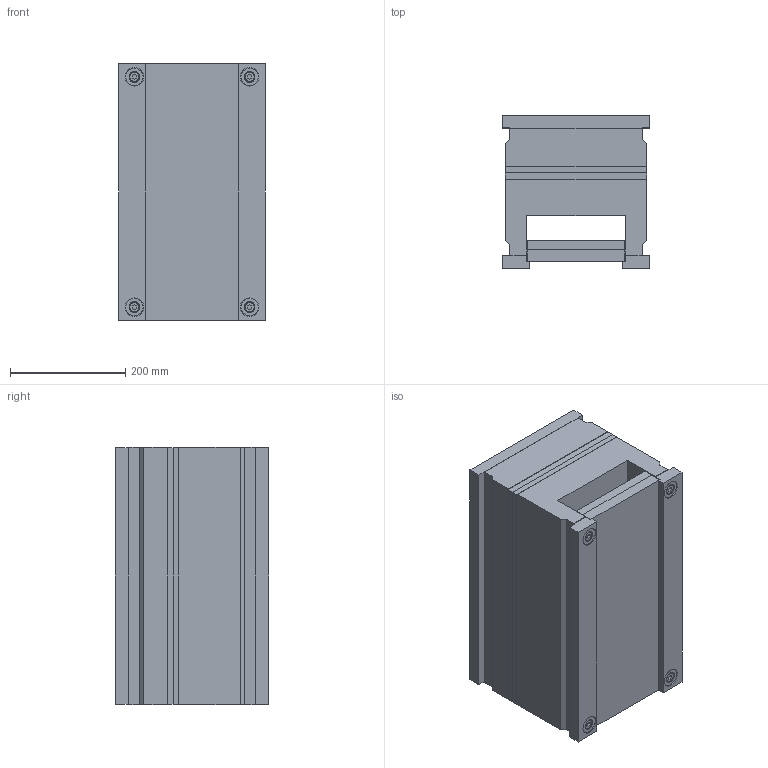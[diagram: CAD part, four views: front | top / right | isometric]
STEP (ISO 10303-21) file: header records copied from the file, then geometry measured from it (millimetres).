
FILE_DESCRIPTION (( 'STEP AP214' ), '1' );
FILE_NAME ('2465.STEP', '2002-07-10T07:54:50', ( 'Simcha Kilim' ), ( 'K. Plastics Engineering' ), 'SwSTEP 2.0', 'SolidWorks 2002025', '' );
FILE_SCHEMA (( 'AUTOMOTIVE_DESIGN' ));
Length unit declared in the file: millimetre
Products named in the file (12): 2465; ALMO (ejector half)_2465; ALMO (hot half)_2465; ALMO (ejector plate)_2465; ALMO (ejector return plate)_2465; ALMO (guide bush)_Ø18; ALMO (guide bush)_Ø19; ALMO (key plate)_Ø18; ALMO (guide pin)_Ø19; ALMO (screw)_M10x120; ALMO (screw)_M10x70; ALMO (guide pin)_Ø18
Assembly tree (28 placements, depth 2):
  2465
    ALMO (key plate)_Ø18  x8
    ALMO (screw)_M10x120  x4
    ALMO (ejector half)_2465
    ALMO (screw)_M10x70  x4
    ALMO (guide bush)_Ø19
    ALMO (guide bush)_Ø18  x3
    ALMO (guide pin)_Ø18  x3
    ALMO (ejector return plate)_2465
    ALMO (guide pin)_Ø19
    ALMO (hot half)_2465
    ALMO (ejector plate)_2465
Bounding box: 255 x 266 x 448 mm (x, y, z)
Volume: 24562169.1 mm3; surface area: 1429582.1 mm2
Topology: 28 solids, 28 shells, 706 faces, 1496 edges, 924 vertices
Faces by surface type: cylinder 260, plane 254, cone 192
Entity records: 10477 total; most frequent: DIRECTION 1914, CARTESIAN_POINT 1683, ORIENTED_EDGE 1584, EDGE_CURVE 792, AXIS2_PLACEMENT_3D 729, VERTEX_POINT 498, LINE 456, VECTOR 456
